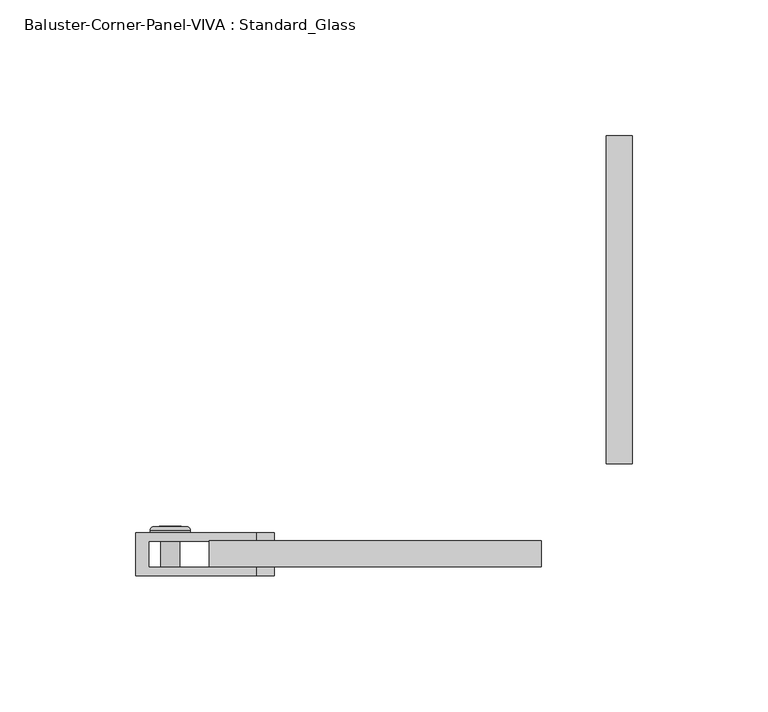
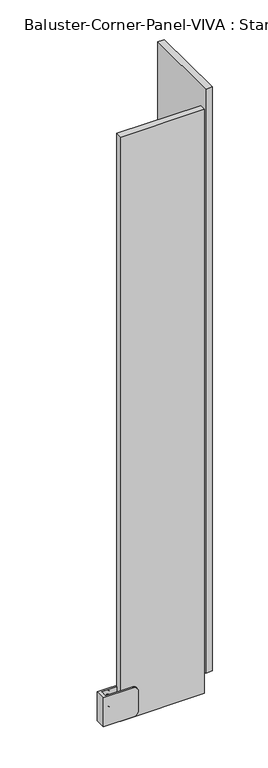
"""IFC4 building model written with IfcOpenShell, lengths in millimetres: railing geometry, Baluster-Corner-Panel-VIVA : Standard_Glass."""

from ifc_helpers import new_model, si_unit, point, frame, origin, place, context, project, spatial, polyline, circle_curve, ellipse_curve, trimmed, outline, extrude, source, transform, mapped, element, save
from ifc_brep_helpers import plane_surface, cylinder_surface, revolved_surface, advanced_brep


def baluster_corner_panel_viva_standard_glass_ba450754(model_context):
    return source(origin(), model_context, "Body", "SolidModel", [
        advanced_brep(
        [(-136.5806612, -36.7665, 138.7358896), (-136.5806612, -24.0665, 138.7358896), (-129.4897694, -24.0665, 138.7358896), (-129.4897694, -36.7665, 138.7358896), (-140.4430044, -24.0665, 138.7358896), (-125.6274262, -24.0665, 138.7358896), (-134.6912907, -23.199388, 138.7358896), (-134.6912907, -36.7665, 138.7358896), (-131.3791399, -36.7665, 138.7358896), (-131.3791399, -23.199388, 138.7358896), (-140.4430044, -23.2316551, 138.7358896), (-139.1617324, -21.9503831, 138.7358896), (-126.9086983, -21.9503831, 138.7358896), (-125.6274262, -23.2316551, 138.7358896), (-137.3338109, -21.9503831, 138.7358896), (-128.7366198, -21.9503831, 138.7358896), (-137.3338109, -23.199388, 138.7358896), (-128.7366198, -23.199388, 138.7358896)],
        [
            (0, 1),
            (1, 2, circle_curve(frame((-133.0352153, -24.0665, 138.7358896), z_axis=(0.0, -1.0, 0.0), x_axis=(1.0, 0.0, 0.0)), 3.5454459)),
            (2, 3),
            (3, 0, circle_curve(frame((-133.0352153, -36.7665, 138.7358896), z_axis=(0.0, 1.0, 0.0), x_axis=(1.0, 0.0, 0.0)), 3.5454459)),
            (2, 1, circle_curve(frame((-133.0352153, -24.0665, 138.7358896), z_axis=(0.0, -1.0, 0.0), x_axis=(1.0, 0.0, 0.0)), 3.5454459)),
            (0, 3, circle_curve(frame((-133.0352153, -36.7665, 138.7358896), z_axis=(0.0, 1.0, 0.0), x_axis=(1.0, 0.0, 0.0)), 3.5454459)),
            (1, 4),
            (4, 5, circle_curve(frame((-133.0352153, -24.0665, 138.7358896), z_axis=(0.0, -1.0, 0.0), x_axis=(1.0, 0.0, 0.0)), 7.4077891)),
            (5, 2),
            (5, 4, circle_curve(frame((-133.0352153, -24.0665, 138.7358896), z_axis=(0.0, -1.0, 0.0), x_axis=(1.0, 0.0, 0.0)), 7.4077891)),
            (6, 7),
            (7, 8, circle_curve(frame((-133.0352153, -36.7665, 138.7358896), z_axis=(0.0, -1.0, 0.0), x_axis=(1.0, 0.0, 0.0)), 1.6560754)),
            (8, 9),
            (9, 6, circle_curve(frame((-133.0352153, -23.199388, 138.7358896), z_axis=(0.0, 1.0, 0.0), x_axis=(1.0, 0.0, 0.0)), 1.6560754)),
            (8, 7, circle_curve(frame((-133.0352153, -36.7665, 138.7358896), z_axis=(0.0, -1.0, 0.0), x_axis=(1.0, 0.0, 0.0)), 1.6560754)),
            (6, 9, circle_curve(frame((-133.0352153, -23.199388, 138.7358896), z_axis=(0.0, 1.0, 0.0), x_axis=(1.0, 0.0, 0.0)), 1.6560754)),
            (10, 11, circle_curve(frame((-139.1617324, -23.2316551, 138.7358896), z_axis=(0.0, 0.0, -1.0), x_axis=(-1.0, 0.0, 0.0)), 1.281272)),
            (11, 12, circle_curve(frame((-133.0352153, -21.9503831, 138.7358896), z_axis=(0.0, -1.0, 0.0), x_axis=(1.0, 0.0, 0.0)), 6.1265171)),
            (12, 13, circle_curve(frame((-126.9086983, -23.2316551, 138.7358896), z_axis=(0.0, 0.0, -1.0), x_axis=(1.0, 0.0, 0.0)), 1.281272)),
            (13, 10, circle_curve(frame((-133.0352153, -23.2316551, 138.7358896), z_axis=(0.0, 1.0, 0.0), x_axis=(1.0, 0.0, 0.0)), 7.4077891)),
            (12, 11, circle_curve(frame((-133.0352153, -21.9503831, 138.7358896), z_axis=(0.0, -1.0, 0.0), x_axis=(1.0, 0.0, 0.0)), 6.1265171)),
            (10, 13, circle_curve(frame((-133.0352153, -23.2316551, 138.7358896), z_axis=(0.0, 1.0, 0.0), x_axis=(1.0, 0.0, 0.0)), 7.4077891)),
            (11, 14),
            (14, 15, circle_curve(frame((-133.0352153, -21.9503831, 138.7358896), z_axis=(0.0, -1.0, 0.0), x_axis=(1.0, 0.0, 0.0)), 4.2985955)),
            (15, 12),
            (15, 14, circle_curve(frame((-133.0352153, -21.9503831, 138.7358896), z_axis=(0.0, -1.0, 0.0), x_axis=(1.0, 0.0, 0.0)), 4.2985955)),
            (4, 10),
            (13, 5),
            (7, 0),
            (3, 8),
            (14, 16),
            (16, 17, circle_curve(frame((-133.0352153, -23.199388, 138.7358896), z_axis=(0.0, -1.0, 0.0), x_axis=(1.0, 0.0, 0.0)), 4.2985955)),
            (17, 15),
            (17, 16, circle_curve(frame((-133.0352153, -23.199388, 138.7358896), z_axis=(0.0, -1.0, 0.0), x_axis=(1.0, 0.0, 0.0)), 4.2985955)),
            (16, 6),
            (9, 17),
        ],
        [
            cylinder_surface(frame((-133.0352153, -27.5632331, 138.7358896), z_axis=(0.0, -1.0, 0.0), x_axis=(1.0, 0.0, 0.0)), 3.5454459),
            plane_surface(frame((-133.0352153, -24.0665, 138.7358896), z_axis=(0.0, -1.0, 0.0), x_axis=(1.0, 0.0, 0.0))),
            revolved_surface(polyline([(-131.3791399, -36.7665, 138.7358896), (-131.3791399, -23.199388, 138.7358896)]), (-133.0352153, -27.5632331, 138.7358896), (0.0, -1.0, 0.0)),
            revolved_surface(trimmed(ellipse_curve(frame((-126.9086983, -23.2316551, 138.7358896), z_axis=(0.0, 0.0, -1.0), x_axis=(1.0, 0.0, 0.0)), 1.281272, 1.281272), [point((-126.9086983, -21.9503831, 138.7358896))], [point((-125.6274262, -23.2316551, 138.7358896))], True, "CARTESIAN"), (-133.0352153, -27.5632331, 138.7358896), (0.0, -1.0, 0.0)),
            plane_surface(frame((-133.0352153, -21.9503831, 138.7358896), z_axis=(0.0, 1.0, 0.0), x_axis=(1.0, 0.0, 0.0))),
            cylinder_surface(frame((-133.0352153, -27.5632331, 138.7358896), z_axis=(0.0, -1.0, 0.0), x_axis=(1.0, 0.0, 0.0)), 7.4077891),
            plane_surface(frame((-133.0352153, -36.7665, 138.7358896), z_axis=(0.0, -1.0, 0.0), x_axis=(1.0, 0.0, 0.0))),
            revolved_surface(polyline([(-128.7366198, -23.199388, 138.7358896), (-128.7366198, -21.9503831, 138.7358896)]), (-133.0352153, -27.5632331, 138.7358896), (0.0, -1.0, 0.0)),
            plane_surface(frame((-133.0352153, -23.199388, 138.7358896), z_axis=(0.0, 1.0, 0.0), x_axis=(1.0, 0.0, 0.0))),
        ],
        [
            (0, [[1, 2, 3, 4]]),
            (0, [[-3, 5, -1, 6]]),
            (1, [[7, 8, 9, -2]]),
            (1, [[-9, 10, -7, -5]]),
            (2, [[11, 12, 13, 14]]),
            (2, [[-13, 15, -11, 16]]),
            (3, [[17, 18, 19, 20]]),
            (3, [[-19, 21, -17, 22]]),
            (4, [[23, 24, 25, -18]]),
            (4, [[-25, 26, -23, -21]]),
            (5, [[27, -20, 28, -8]]),
            (5, [[-28, -22, -27, -10]]),
            (6, [[29, -4, 30, -12]]),
            (6, [[-30, -6, -29, -15]]),
            (7, [[31, 32, 33, -24]]),
            (7, [[-33, 34, -31, -26]]),
            (8, [[35, -14, 36, -32]]),
            (8, [[-36, -16, -35, -34]]),
        ],
    ),
        advanced_brep(
        [(-136.5806612, -36.7665, 114.1296396), (-136.5806612, -24.0665, 114.1296396), (-129.4897694, -24.0665, 114.1296396), (-129.4897694, -36.7665, 114.1296396), (-140.4430044, -24.0665, 114.1296396), (-125.6274262, -24.0665, 114.1296396), (-134.6912907, -23.199388, 114.1296396), (-134.6912907, -36.7665, 114.1296396), (-131.3791399, -36.7665, 114.1296396), (-131.3791399, -23.199388, 114.1296396), (-140.4430044, -23.2316551, 114.1296396), (-139.1617324, -21.9503831, 114.1296396), (-126.9086983, -21.9503831, 114.1296396), (-125.6274262, -23.2316551, 114.1296396), (-137.3338109, -21.9503831, 114.1296396), (-128.7366198, -21.9503831, 114.1296396), (-137.3338109, -23.199388, 114.1296396), (-128.7366198, -23.199388, 114.1296396)],
        [
            (0, 1),
            (1, 2, circle_curve(frame((-133.0352153, -24.0665, 114.1296396), z_axis=(0.0, -1.0, 0.0), x_axis=(1.0, 0.0, 0.0)), 3.5454459)),
            (2, 3),
            (3, 0, circle_curve(frame((-133.0352153, -36.7665, 114.1296396), z_axis=(0.0, 1.0, 0.0), x_axis=(1.0, 0.0, 0.0)), 3.5454459)),
            (2, 1, circle_curve(frame((-133.0352153, -24.0665, 114.1296396), z_axis=(0.0, -1.0, 0.0), x_axis=(1.0, 0.0, 0.0)), 3.5454459)),
            (0, 3, circle_curve(frame((-133.0352153, -36.7665, 114.1296396), z_axis=(0.0, 1.0, 0.0), x_axis=(1.0, 0.0, 0.0)), 3.5454459)),
            (1, 4),
            (4, 5, circle_curve(frame((-133.0352153, -24.0665, 114.1296396), z_axis=(0.0, -1.0, 0.0), x_axis=(1.0, 0.0, 0.0)), 7.4077891)),
            (5, 2),
            (5, 4, circle_curve(frame((-133.0352153, -24.0665, 114.1296396), z_axis=(0.0, -1.0, 0.0), x_axis=(1.0, 0.0, 0.0)), 7.4077891)),
            (6, 7),
            (7, 8, circle_curve(frame((-133.0352153, -36.7665, 114.1296396), z_axis=(0.0, -1.0, 0.0), x_axis=(1.0, 0.0, 0.0)), 1.6560754)),
            (8, 9),
            (9, 6, circle_curve(frame((-133.0352153, -23.199388, 114.1296396), z_axis=(0.0, 1.0, 0.0), x_axis=(1.0, 0.0, 0.0)), 1.6560754)),
            (8, 7, circle_curve(frame((-133.0352153, -36.7665, 114.1296396), z_axis=(0.0, -1.0, 0.0), x_axis=(1.0, 0.0, 0.0)), 1.6560754)),
            (6, 9, circle_curve(frame((-133.0352153, -23.199388, 114.1296396), z_axis=(0.0, 1.0, 0.0), x_axis=(1.0, 0.0, 0.0)), 1.6560754)),
            (10, 11, circle_curve(frame((-139.1617324, -23.2316551, 114.1296396), z_axis=(0.0, 0.0, -1.0), x_axis=(-1.0, 0.0, 0.0)), 1.281272)),
            (11, 12, circle_curve(frame((-133.0352153, -21.9503831, 114.1296396), z_axis=(0.0, -1.0, 0.0), x_axis=(1.0, 0.0, 0.0)), 6.1265171)),
            (12, 13, circle_curve(frame((-126.9086983, -23.2316551, 114.1296396), z_axis=(0.0, 0.0, -1.0), x_axis=(1.0, 0.0, 0.0)), 1.281272)),
            (13, 10, circle_curve(frame((-133.0352153, -23.2316551, 114.1296396), z_axis=(0.0, 1.0, 0.0), x_axis=(1.0, 0.0, 0.0)), 7.4077891)),
            (12, 11, circle_curve(frame((-133.0352153, -21.9503831, 114.1296396), z_axis=(0.0, -1.0, 0.0), x_axis=(1.0, 0.0, 0.0)), 6.1265171)),
            (10, 13, circle_curve(frame((-133.0352153, -23.2316551, 114.1296396), z_axis=(0.0, 1.0, 0.0), x_axis=(1.0, 0.0, 0.0)), 7.4077891)),
            (11, 14),
            (14, 15, circle_curve(frame((-133.0352153, -21.9503831, 114.1296396), z_axis=(0.0, -1.0, 0.0), x_axis=(1.0, 0.0, 0.0)), 4.2985955)),
            (15, 12),
            (15, 14, circle_curve(frame((-133.0352153, -21.9503831, 114.1296396), z_axis=(0.0, -1.0, 0.0), x_axis=(1.0, 0.0, 0.0)), 4.2985955)),
            (7, 0),
            (3, 8),
            (4, 10),
            (13, 5),
            (14, 16),
            (16, 17, circle_curve(frame((-133.0352153, -23.199388, 114.1296396), z_axis=(0.0, -1.0, 0.0), x_axis=(1.0, 0.0, 0.0)), 4.2985955)),
            (17, 15),
            (17, 16, circle_curve(frame((-133.0352153, -23.199388, 114.1296396), z_axis=(0.0, -1.0, 0.0), x_axis=(1.0, 0.0, 0.0)), 4.2985955)),
            (16, 6),
            (9, 17),
        ],
        [
            cylinder_surface(frame((-133.0352153, -27.5632331, 114.1296396), z_axis=(0.0, -1.0, 0.0), x_axis=(1.0, 0.0, 0.0)), 3.5454459),
            plane_surface(frame((-133.0352153, -24.0665, 114.1296396), z_axis=(0.0, -1.0, 0.0), x_axis=(1.0, 0.0, 0.0))),
            revolved_surface(polyline([(-131.3791399, -36.7665, 114.1296396), (-131.3791399, -23.199388, 114.1296396)]), (-133.0352153, -27.5632331, 114.1296396), (0.0, -1.0, 0.0)),
            revolved_surface(trimmed(ellipse_curve(frame((-126.9086983, -23.2316551, 114.1296396), z_axis=(0.0, 0.0, -1.0), x_axis=(1.0, 0.0, 0.0)), 1.281272, 1.281272), [point((-126.9086983, -21.9503831, 114.1296396))], [point((-125.6274262, -23.2316551, 114.1296396))], True, "CARTESIAN"), (-133.0352153, -27.5632331, 114.1296396), (0.0, -1.0, 0.0)),
            plane_surface(frame((-133.0352153, -21.9503831, 114.1296396), z_axis=(0.0, 1.0, 0.0), x_axis=(1.0, 0.0, 0.0))),
            plane_surface(frame((-133.0352153, -36.7665, 114.1296396), z_axis=(0.0, -1.0, 0.0), x_axis=(1.0, 0.0, 0.0))),
            cylinder_surface(frame((-133.0352153, -27.5632331, 114.1296396), z_axis=(0.0, -1.0, 0.0), x_axis=(1.0, 0.0, 0.0)), 7.4077891),
            revolved_surface(polyline([(-128.7366198, -23.199388, 114.1296396), (-128.7366198, -21.9503831, 114.1296396)]), (-133.0352153, -27.5632331, 114.1296396), (0.0, -1.0, 0.0)),
            plane_surface(frame((-133.0352153, -23.199388, 114.1296396), z_axis=(0.0, 1.0, 0.0), x_axis=(1.0, 0.0, 0.0))),
        ],
        [
            (0, [[1, 2, 3, 4]]),
            (0, [[-3, 5, -1, 6]]),
            (1, [[7, 8, 9, -2]]),
            (1, [[-9, 10, -7, -5]]),
            (2, [[11, 12, 13, 14]]),
            (2, [[-13, 15, -11, 16]]),
            (3, [[17, 18, 19, 20]]),
            (3, [[-19, 21, -17, 22]]),
            (4, [[23, 24, 25, -18]]),
            (4, [[-25, 26, -23, -21]]),
            (5, [[27, -4, 28, -12]]),
            (5, [[-28, -6, -27, -15]]),
            (6, [[29, -20, 30, -8]]),
            (6, [[-30, -22, -29, -10]]),
            (7, [[31, 32, 33, -24]]),
            (7, [[-33, 34, -31, -26]]),
            (8, [[35, -14, 36, -32]]),
            (8, [[-36, -16, -35, -34]]),
        ],
    ),
        extrude(outline(polyline([(114.1296396, -137.1291436), (110.5841937, -135.0821795), (110.5841937, -130.9882512), (114.1296396, -128.941287), (117.6750855, -130.9882512), (117.6750855, -135.0821795), (114.1296396, -137.1291436)])), frame((0.0, -23.199388, 0.0), z_axis=(0.0, 1.0, 0.0), x_axis=(0.0, 0.0, 1.0)), (0.0, 0.0, 1.0), 1.4969696),
        advanced_brep(
        [(-145.6685601, -24.0665, 148.6577646), (-101.2185601, -24.0665, 148.6577646), (-94.8685601, -24.0665, 142.3077646), (-94.8685601, -24.0665, 110.5577646), (-101.2185601, -24.0665, 104.2077646), (-145.6685601, -24.0665, 104.2077646), (-145.6685601, -39.9415, 148.6577646), (-145.6685601, -39.9415, 104.2077646), (-101.2185601, -39.9415, 104.2077646), (-94.8685601, -39.9415, 110.5577646), (-94.8685601, -39.9415, 142.3077646), (-101.2185601, -39.9415, 148.6577646), (-101.2185601, -27.2415, 104.2077646), (-140.9504797, -27.2415, 104.2077646), (-140.9504797, -36.7665, 104.2077646), (-101.2185601, -36.7665, 104.2077646), (-140.9504797, -27.2415, 148.6577646), (-140.9504797, -36.7665, 148.6577646), (-94.8685601, -27.2415, 110.5577646), (-94.8685601, -27.2415, 142.3077646), (-101.2185601, -27.2415, 148.6577646), (-101.2185601, -36.7665, 148.6577646), (-94.8685601, -36.7665, 142.3077646), (-94.8685601, -36.7665, 110.5577646)],
        [
            (0, 1),
            (1, 2, circle_curve(frame((-101.2185601, -24.0665, 142.3077646), z_axis=(0.0, 1.0, 0.0), x_axis=(1.0, 0.0, 0.0)), 6.35)),
            (2, 3),
            (3, 4, circle_curve(frame((-101.2185601, -24.0665, 110.5577646), z_axis=(0.0, 1.0, 0.0), x_axis=(1.0, 0.0, 0.0)), 6.35)),
            (4, 5),
            (5, 0),
            (6, 7),
            (7, 8),
            (8, 9, circle_curve(frame((-101.2185601, -39.9415, 110.5577646), z_axis=(0.0, -1.0, 0.0), x_axis=(1.0, 0.0, 0.0)), 6.35)),
            (9, 10),
            (10, 11, circle_curve(frame((-101.2185601, -39.9415, 142.3077646), z_axis=(0.0, -1.0, 0.0), x_axis=(1.0, 0.0, 0.0)), 6.35)),
            (11, 6),
            (5, 7),
            (6, 0),
            (4, 12),
            (12, 13),
            (13, 14),
            (14, 15),
            (15, 8),
            (13, 16),
            (16, 17),
            (17, 14),
            (12, 18, circle_curve(frame((-101.2185601, -27.2415, 110.5577646), z_axis=(0.0, -1.0, 0.0), x_axis=(1.0, 0.0, 0.0)), 6.35)),
            (18, 19),
            (19, 20, circle_curve(frame((-101.2185601, -27.2415, 142.3077646), z_axis=(0.0, -1.0, 0.0), x_axis=(1.0, 0.0, 0.0)), 6.35)),
            (20, 16),
            (17, 21),
            (21, 22, circle_curve(frame((-101.2185601, -36.7665, 142.3077646), z_axis=(0.0, 1.0, 0.0), x_axis=(1.0, 0.0, 0.0)), 6.35)),
            (22, 23),
            (23, 15, circle_curve(frame((-101.2185601, -36.7665, 110.5577646), z_axis=(0.0, 1.0, 0.0), x_axis=(1.0, 0.0, 0.0)), 6.35)),
            (23, 9),
            (3, 18),
            (22, 10),
            (2, 19),
            (21, 11),
            (1, 20),
        ],
        [
            plane_surface(frame((-145.6685601, -24.0665, 104.2077646), z_axis=(0.0, 1.0, 0.0), x_axis=(0.0, 0.0, -1.0))),
            plane_surface(frame((-145.6685601, -39.9415, 104.2077646), z_axis=(0.0, -1.0, 0.0), x_axis=(0.0, 0.0, 1.0))),
            plane_surface(frame((-145.6685601, -24.0665, 148.6577646), z_axis=(-1.0, 0.0, 0.0), x_axis=(0.0, -1.0, 0.0))),
            plane_surface(frame((-145.6685601, -24.0665, 104.2077646), z_axis=(0.0, 0.0, -1.0), x_axis=(0.0, -1.0, 0.0))),
            plane_surface(frame((-140.9504797, -36.7665, 161.3577646), z_axis=(1.0, 0.0, 0.0), x_axis=(0.0, 0.0, -1.0))),
            plane_surface(frame((-140.9504797, -27.2415, 161.3577646), z_axis=(0.0, -1.0, 0.0), x_axis=(0.0, 0.0, -1.0))),
            plane_surface(frame((-82.1685601, -36.7665, 161.3577646), z_axis=(0.0, 1.0, 0.0), x_axis=(0.0, 0.0, -1.0))),
            cylinder_surface(frame((-101.2185601, -39.9415, 110.5577646), z_axis=(0.0, 1.0, 0.0), x_axis=(1.0, 0.0, 0.0)), 6.35),
            plane_surface(frame((-94.8685601, -24.0665, 110.5577646), z_axis=(1.0, 0.0, 0.0), x_axis=(0.0, -1.0, 0.0))),
            cylinder_surface(frame((-101.2185601, -39.9415, 142.3077646), z_axis=(0.0, 1.0, 0.0), x_axis=(1.0, 0.0, 0.0)), 6.35),
            plane_surface(frame((-101.2185601, -24.0665, 148.6577646), z_axis=(0.0, 0.0, 1.0), x_axis=(0.0, -1.0, 0.0))),
        ],
        [
            (0, [[1, 2, 3, 4, 5, 6]]),
            (1, [[7, 8, 9, 10, 11, 12]]),
            (2, [[13, -7, 14, -6]]),
            (3, [[15, 16, 17, 18, 19, -8, -13, -5]]),
            (4, [[-17, 20, 21, 22]]),
            (5, [[-16, 23, 24, 25, 26, -20]]),
            (6, [[27, 28, 29, 30, -18, -22]]),
            (7, [[-19, -30, 31, -9]]),
            (7, [[32, -23, -15, -4]]),
            (8, [[-31, -29, 33, -10]]),
            (8, [[34, -24, -32, -3]]),
            (9, [[-33, -28, 35, -11]]),
            (9, [[36, -25, -34, -2]]),
            (10, [[-14, -12, -35, -27, -21, -26, -36, -1]]),
        ],
    ),
        extrude(outline(polyline([(36.7665, 1.0851207), (27.2415, 1.0851207), (27.2415, 121.6571052), (36.7665, 121.6571052), (36.7665, 1.0851207)])), frame((0.0, 0.0, 101.6), z_axis=(0.0, 0.0, 1.0), x_axis=(1.0, 0.0, 0.0)), (0.0, 0.0, 1.0), 901.7),
        extrude(outline(polyline([(-118.7254797, -36.7665), (-118.7254797, -27.2415), (3.429, -27.2415), (3.429, -36.7665), (-118.7254797, -36.7665)])), frame((0.0, 0.0, 101.6), z_axis=(0.0, 0.0, 1.0), x_axis=(1.0, 0.0, 0.0)), (0.0, 0.0, 1.0), 901.7),
    ])


if __name__ == "__main__":
    model = new_model("IFC4")
    model_context = context("Model", 3, world=origin())
    ifc_project = project(units=[si_unit("LENGTHUNIT", "METRE", prefix="MILLI")], contexts=[model_context])
    site = spatial("IfcSite", under=ifc_project)
    building = spatial("IfcBuilding", under=site)
    placement = place(None, origin())
    baluster_corner_panel_viva_standard_glass_shape = baluster_corner_panel_viva_standard_glass_ba450754(model_context)
    element("IfcRailing", 1, ObjectType="Baluster-Corner-Panel-VIVA : Standard_Glass", at=placement, inside=building, context=model_context, shape_type="MappedRepresentation", body=[
        mapped(baluster_corner_panel_viva_standard_glass_shape, transform((0.0, 0.0, 0.0), x_axis=(1.0, 0.0, 0.0), y_axis=(0.0, 1.0, 0.0), z_axis=(0.0, 0.0, 1.0))),
    ])
    save(model, "model.ifc")
